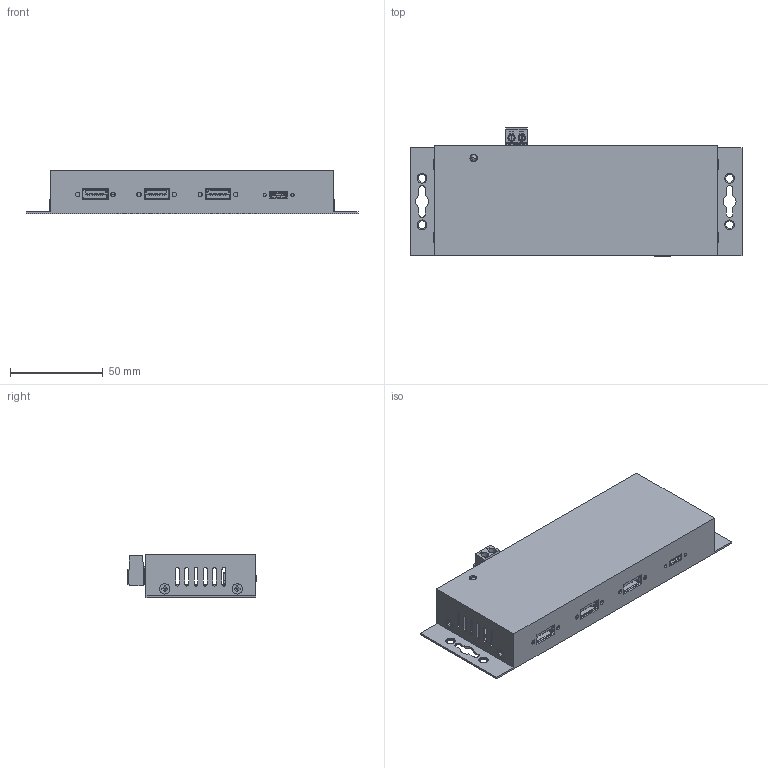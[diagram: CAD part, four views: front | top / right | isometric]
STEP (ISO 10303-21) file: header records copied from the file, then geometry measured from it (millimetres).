
FILE_DESCRIPTION(('FreeCAD Model'),'2;1');
FILE_NAME( 'X:/Technische Zeichnungen/EX-1191HMVS-PD/EX-1191HMVS-PD_3D.step', '2021-11-10T12:48:50',('Author'),(''), 'Open CASCADE STEP processor 7.3','FreeCAD','Unknown');
FILE_SCHEMA(('AUTOMOTIVE_DESIGN { 1 0 10303 214 1 1 1 1 }'));
Products named in the file (1): EX-1191HMVS-PD
Bounding box: 178.6 x 69.13 x 23.47 mm (x, y, z)
Volume: 47772.1 mm3; surface area: 83447.1 mm2
Topology: 2 solids, 3 shells, 3360 faces, 10178 edges, 6782 vertices
Faces by surface type: plane 2442, cylinder 719, cone 106, torus 73, sphere 14, revolution 6
Full cylindrical faces by diameter (mm): 0.55 x4, 1.5 x4, 1.75 x2, 1.8 x1, 2 x4, 2.4 x6, 2.459 x4, 2.5 x1, 2.6 x5, 3 x9, 3.12 x2, 3.2 x2, 3.4 x4, 4 x8, 4.2 x4, 5.3 x4, 5.5 x4, 6.4 x1
Entity records: 361384 total; most frequent: CARTESIAN_POINT 146922, DIRECTION 32423, LINE 20483, VECTOR 20483, ORIENTED_EDGE 20328, PCURVE 20328, DEFINITIONAL_REPRESENTATION 20328, EDGE_CURVE 10164
